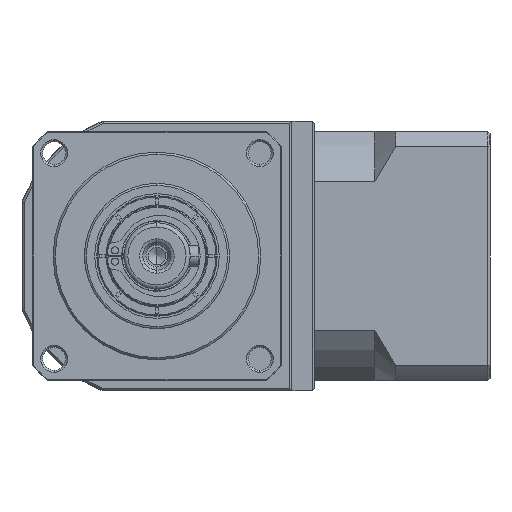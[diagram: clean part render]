
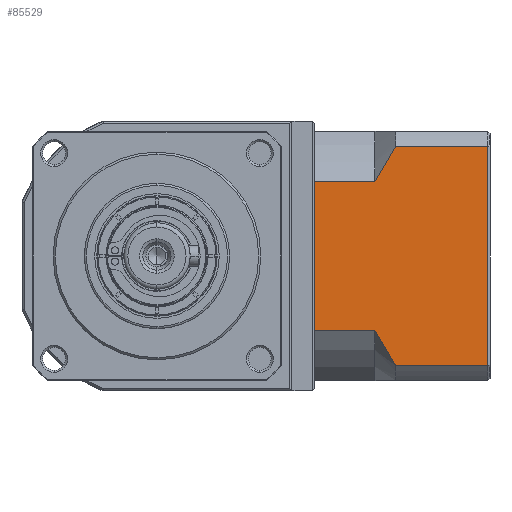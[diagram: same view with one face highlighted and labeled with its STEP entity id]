
A CAD part, left-side view. The second image highlights one B-rep face of the part: STEP entity #85529.
In plain terms, the highlighted planar face has unit normal (-1, 0, 0).
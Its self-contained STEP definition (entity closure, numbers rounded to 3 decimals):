
#3078 = LINE ( 'NONE', #137143, #157645 ) ;
#4143 = CARTESIAN_POINT ( 'NONE',  ( -26.181, -75.668, -143.941 ) ) ;
#5051 = CARTESIAN_POINT ( 'NONE',  ( -26.181, -74.918, -150.915 ) ) ;
#5684 = VERTEX_POINT ( 'NONE', #39414 ) ;
#7549 = CARTESIAN_POINT ( 'NONE',  ( -26.181, -74.918, -142.485 ) ) ;
#15329 = ORIENTED_EDGE ( 'NONE', *, *, #67869, .T. ) ;
#16427 = CARTESIAN_POINT ( 'NONE',  ( -26.181, -79.017, -149.552 ) ) ;
#19336 = ORIENTED_EDGE ( 'NONE', *, *, #111221, .T. ) ;
#22145 = CARTESIAN_POINT ( 'NONE',  ( -26.181, -102.118, -150.915 ) ) ;
#23898 = VECTOR ( 'NONE', #86851, 1000. ) ;
#32147 = EDGE_CURVE ( 'NONE', #109155, #97848, #50512, .T. ) ;
#33046 = CARTESIAN_POINT ( 'NONE',  ( -26.181, -79.918, -98. ) ) ;
#33459 = DIRECTION ( 'NONE',  ( 0., 0., -1. ) ) ;
#34202 = ORIENTED_EDGE ( 'NONE', *, *, #91393, .F. ) ;
#35407 = VECTOR ( 'NONE', #33459, 1000. ) ;
#39214 = CARTESIAN_POINT ( 'NONE',  ( -26.181, -74.918, -106.429 ) ) ;
#39414 = CARTESIAN_POINT ( 'NONE',  ( -26.181, -60.418, -106.429 ) ) ;
#42722 = VECTOR ( 'NONE', #69735, 1000. ) ;
#44455 = EDGE_CURVE ( 'NONE', #109155, #62635, #146883, .T. ) ;
#46322 = CARTESIAN_POINT ( 'NONE',  ( -26.181, -76.469, -103.546 ) ) ;
#50512 = B_SPLINE_CURVE_WITH_KNOTS ( 'NONE', 3,
 ( #52170, #4143, #77295, #89509, #16427, #101726 ),
 .UNSPECIFIED., .F., .F.,
 ( 4, 2, 4 ),
 ( 0.1, 0.104, 0.109 ),
 .UNSPECIFIED. ) ;
#52170 = CARTESIAN_POINT ( 'NONE',  ( -26.181, -74.918, -142.485 ) ) ;
#52968 = FACE_OUTER_BOUND ( 'NONE', #110951, .T. ) ;
#53777 = VERTEX_POINT ( 'NONE', #116522 ) ;
#56616 = DIRECTION ( 'NONE',  ( 0., 1., 0. ) ) ;
#58571 = CARTESIAN_POINT ( 'NONE',  ( -26.181, -74.918, -106.429 ) ) ;
#62635 = VERTEX_POINT ( 'NONE', #151311 ) ;
#65222 = ORIENTED_EDGE ( 'NONE', *, *, #32147, .T. ) ;
#65521 = EDGE_CURVE ( 'NONE', #142618, #78233, #3078, .T. ) ;
#66132 = PLANE ( 'NONE',  #71089 ) ;
#66921 = ORIENTED_EDGE ( 'NONE', *, *, #155619, .F. ) ;
#67176 = DIRECTION ( 'NONE',  ( 1., 0., 0. ) ) ;
#67869 = EDGE_CURVE ( 'NONE', #151301, #53777, #142678, .T. ) ;
#68378 = CARTESIAN_POINT ( 'NONE',  ( -26.181, -102.118, -98. ) ) ;
#69735 = DIRECTION ( 'NONE',  ( 0., -1., 0. ) ) ;
#70883 = ORIENTED_EDGE ( 'NONE', *, *, #44455, .F. ) ;
#71089 = AXIS2_PLACEMENT_3D ( 'NONE', #140305, #67176, #152479 ) ;
#71331 = LINE ( 'NONE', #39214, #42722 ) ;
#74596 = CARTESIAN_POINT ( 'NONE',  ( -26.181, -74.918, -98. ) ) ;
#77295 = CARTESIAN_POINT ( 'NONE',  ( -26.181, -76.469, -145.367 ) ) ;
#78233 = VERTEX_POINT ( 'NONE', #68378 ) ;
#85529 = ADVANCED_FACE ( 'NONE', ( #52968 ), #66132, .F. ) ;
#85776 = ORIENTED_EDGE ( 'NONE', *, *, #65521, .T. ) ;
#86851 = DIRECTION ( 'NONE',  ( 0., -1., 0. ) ) ;
#89127 = DIRECTION ( 'NONE',  ( 0., 0., 1. ) ) ;
#89509 = CARTESIAN_POINT ( 'NONE',  ( -26.181, -78.143, -148.172 ) ) ;
#90911 = DIRECTION ( 'NONE',  ( 0., 1., 0. ) ) ;
#91393 = EDGE_CURVE ( 'NONE', #142618, #97848, #118441, .T. ) ;
#97848 = VERTEX_POINT ( 'NONE', #146497 ) ;
#100218 = LINE ( 'NONE', #106454, #35407 ) ;
#101726 = CARTESIAN_POINT ( 'NONE',  ( -26.181, -79.918, -150.915 ) ) ;
#106454 = CARTESIAN_POINT ( 'NONE',  ( -26.181, -60.418, -154.457 ) ) ;
#109155 = VERTEX_POINT ( 'NONE', #129804 ) ;
#110951 = EDGE_LOOP ( 'NONE', ( #34202, #85776, #122176, #15329, #66921, #19336, #70883, #65222 ) ) ;
#111221 = EDGE_CURVE ( 'NONE', #5684, #62635, #100218, .T. ) ;
#114401 = VECTOR ( 'NONE', #56616, 1000. ) ;
#116522 = CARTESIAN_POINT ( 'NONE',  ( -26.181, -74.918, -106.429 ) ) ;
#118441 = LINE ( 'NONE', #5051, #150904 ) ;
#119363 = CARTESIAN_POINT ( 'NONE',  ( -26.181, -78.145, -100.738 ) ) ;
#121252 = LINE ( 'NONE', #74596, #23898 ) ;
#122176 = ORIENTED_EDGE ( 'NONE', *, *, #144961, .F. ) ;
#126191 = CARTESIAN_POINT ( 'NONE',  ( -26.181, -79.918, -98. ) ) ;
#129804 = CARTESIAN_POINT ( 'NONE',  ( -26.181, -74.918, -142.485 ) ) ;
#131089 = CARTESIAN_POINT ( 'NONE',  ( -26.181, -79.018, -99.36 ) ) ;
#131602 = CARTESIAN_POINT ( 'NONE',  ( -26.181, -75.666, -104.977 ) ) ;
#137143 = CARTESIAN_POINT ( 'NONE',  ( -26.181, -102.118, -154.457 ) ) ;
#140305 = CARTESIAN_POINT ( 'NONE',  ( -26.181, -102.618, -154.457 ) ) ;
#142618 = VERTEX_POINT ( 'NONE', #22145 ) ;
#142678 = B_SPLINE_CURVE_WITH_KNOTS ( 'NONE', 3,
 ( #33046, #131089, #119363, #46322, #131602, #58571 ),
 .UNSPECIFIED., .F., .F.,
 ( 4, 2, 4 ),
 ( 0.052, 0.057, 0.062 ),
 .UNSPECIFIED. ) ;
#144961 = EDGE_CURVE ( 'NONE', #151301, #78233, #121252, .T. ) ;
#146497 = CARTESIAN_POINT ( 'NONE',  ( -26.181, -79.918, -150.915 ) ) ;
#146883 = LINE ( 'NONE', #7549, #114401 ) ;
#150904 = VECTOR ( 'NONE', #90911, 1000. ) ;
#151301 = VERTEX_POINT ( 'NONE', #126191 ) ;
#151311 = CARTESIAN_POINT ( 'NONE',  ( -26.181, -60.418, -142.485 ) ) ;
#152479 = DIRECTION ( 'NONE',  ( 0., 1., 0. ) ) ;
#155619 = EDGE_CURVE ( 'NONE', #5684, #53777, #71331, .T. ) ;
#157645 = VECTOR ( 'NONE', #89127, 1000. ) ;
